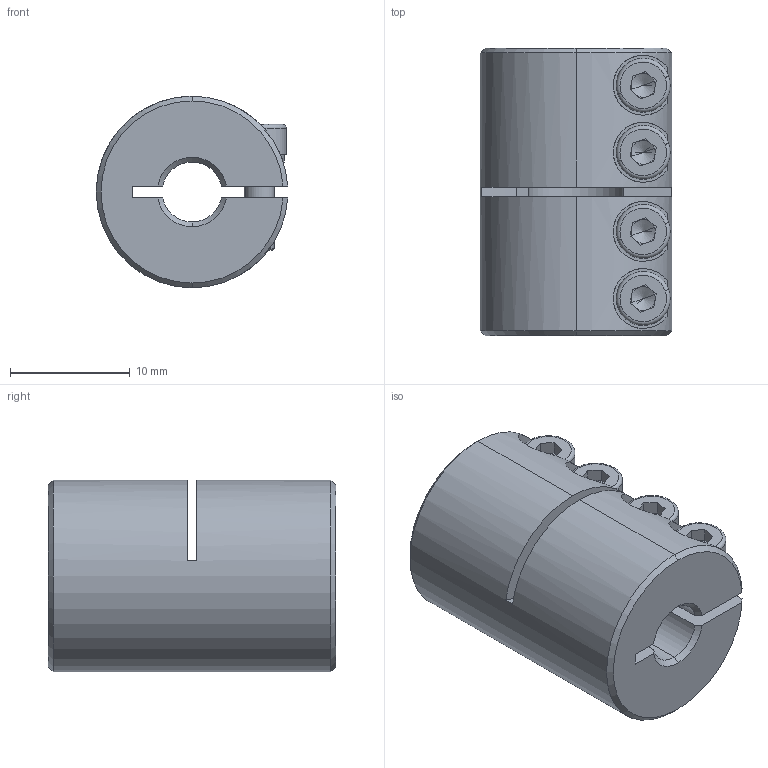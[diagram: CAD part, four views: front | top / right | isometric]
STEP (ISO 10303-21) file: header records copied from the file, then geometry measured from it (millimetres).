
FILE_DESCRIPTION (( 'STEP AP203' ), '1' );
FILE_NAME ('LL-B-D16L24-5-8.STEP', '2021-11-03T04:33:22', ( '' ), ( '' ), 'SwSTEP 2.0', 'SolidWorks 2018', '' );
FILE_SCHEMA (( 'CONFIG_CONTROL_DESIGN' ));
Length unit declared in the file: millimetre
Products named in the file (1): LL-B-D16L24-5-8
Bounding box: 15.98 x 24 x 16 mm (x, y, z)
Volume: 3672.4 mm3; surface area: 2936 mm2
Topology: 1 solids, 1 shells, 205 faces, 533 edges, 332 vertices
Faces by surface type: plane 92, cylinder 77, cone 28, torus 8
Entity records: 6700 total; most frequent: CARTESIAN_POINT 1537, DIRECTION 1109, ORIENTED_EDGE 1050, EDGE_CURVE 525, AXIS2_PLACEMENT_3D 432, VERTEX_POINT 332, LINE 245, VECTOR 245
